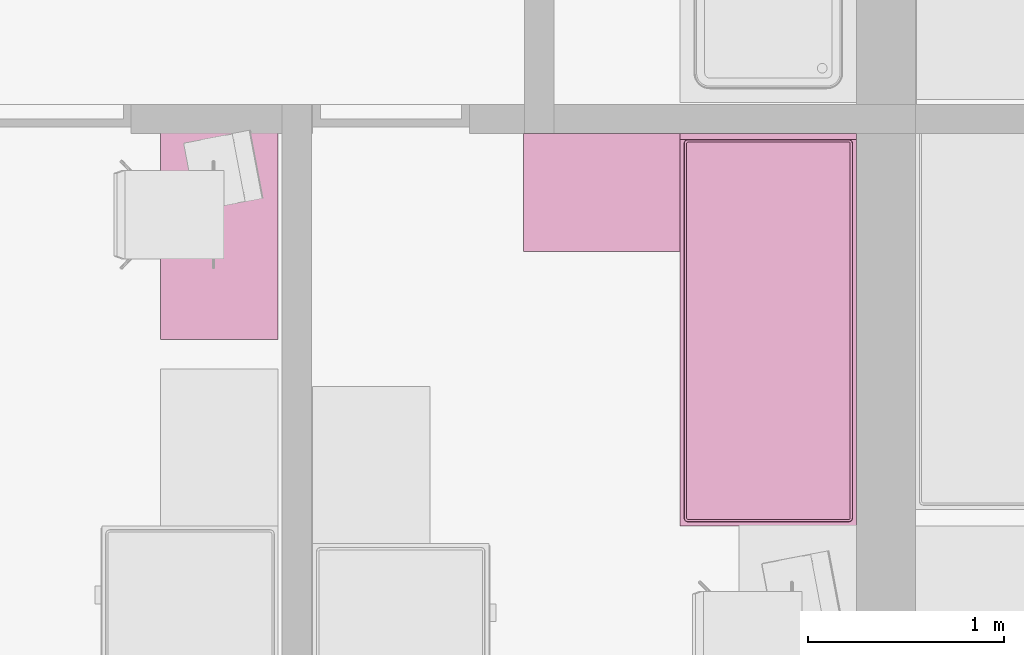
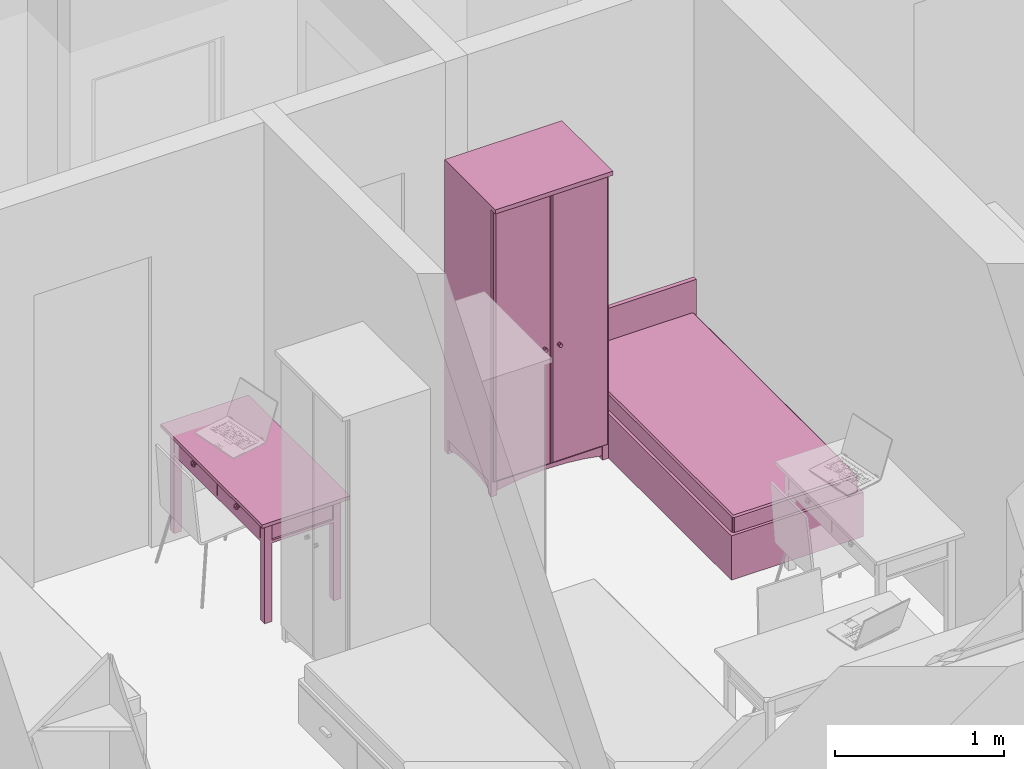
# One storey, part 80 of 165: 3 furnishings.
"""IFC2X3 building model written with IfcOpenShell, lengths in millimetres."""

from ifc_helpers import new_model, entity, si_unit, converted_unit, money_unit, direction, frame, origin_with_axes, place, context, subcontext, project, spatial, faceted_brep, source, transform, mapped, material, material_list, type_object, element, save


model = new_model("IFC2X3")

# Units and contexts
model_context = context("Model", 3, precision=1e-05, world=origin_with_axes(), true_north=direction((0.0, 1.0)))
body_context = subcontext(model_context, "Body", "Model", "MODEL_VIEW")
ifc_project = project(units=[si_unit("LENGTHUNIT", "METRE", prefix="MILLI"), si_unit("AREAUNIT", "SQUARE_METRE"), si_unit("VOLUMEUNIT", "CUBIC_METRE"), converted_unit("PLANEANGLEUNIT", "DEGREE", entity("IfcPlaneAngleMeasure", 0.0174532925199), si_unit("PLANEANGLEUNIT", "RADIAN"), dimensions=[0, 0, 0, 0, 0, 0, 0]), si_unit("SOLIDANGLEUNIT", "STERADIAN"), money_unit("USD"), converted_unit("TIMEUNIT", "Year", entity("IfcTimeMeasure", 31556926.0), si_unit("TIMEUNIT", "SECOND"), dimensions=[0, 0, 0, 0, 0, 0, 0]), si_unit("MASSUNIT", "GRAM"), si_unit("THERMODYNAMICTEMPERATUREUNIT", "DEGREE_CELSIUS"), si_unit("LUMINOUSINTENSITYUNIT", "LUMEN")], contexts=[model_context])

# Site, building, storey
site_placement = place(None, origin_with_axes())
site = spatial("IfcSite", under=ifc_project, at=site_placement, Name="Site", CompositionType="ELEMENT")
building_placement = place(site_placement, origin_with_axes())
building = spatial("IfcBuilding", under=site, at=building_placement, Name="Building", CompositionType="ELEMENT")
storey_placement = place(building_placement, frame((0.0, 0.0, 6300.0), z_axis=(0.0, 0.0, 1.0), x_axis=(1.0, 0.0, 0.0)))
storey = spatial("IfcBuildingStorey", under=building, at=storey_placement, Name="4KORRUS", CompositionType="ELEMENT", Elevation=6300.0)

# Furnishings
ifc_material = material(Name="Background")
ifc_material_list = material_list([ifc_material])
furnishing_element_type_1 = type_object("IfcFurnishingElementType", Name="Bed 19")
shared_shape_1 = source(origin_with_axes(), body_context, "Body", "Brep", [
    faceted_brep([(900.0, 1970.0, 0.0), (0.0, 1970.0, 0.0), (0.0, 2000.0, 0.0), (900.0, 2000.0, 0.0), (900.0, 1970.0, 660.0), (0.0, 1970.0, 660.0), (0.0, 2000.0, 660.0), (900.0, 2000.0, 660.0)], [[[0, 1, 2, 3]], [[1, 0, 4, 5]], [[2, 1, 5, 6]], [[3, 2, 6, 7]], [[0, 3, 7, 4]], [[5, 4, 7, 6]]]),
    faceted_brep([(900.0, 0.0, 0.0), (0.0, 0.0, 0.0), (0.0, 1970.0, 0.0), (900.0, 1970.0, 0.0), (900.0, 0.0, 320.0), (0.0, 0.0, 320.0), (0.0, 1970.0, 320.0), (900.0, 1970.0, 320.0)], [[[0, 1, 2, 3]], [[1, 0, 4, 5]], [[2, 1, 5, 6]], [[3, 2, 6, 7]], [[0, 3, 7, 4]], [[5, 4, 7, 6]]]),
    faceted_brep([(905.0, 10.0, 30.0), (900.0, 10.0, 30.0), (900.0, 695.0, 30.0), (905.0, 695.0, 30.0), (905.0, 10.0, 290.0), (900.0, 10.0, 290.0), (900.0, 695.0, 290.0), (905.0, 695.0, 290.0)], [[[0, 1, 2, 3]], [[1, 0, 4, 5]], [[2, 1, 5, 6]], [[3, 2, 6, 7]], [[0, 3, 7, 4]], [[5, 4, 7, 6]]]),
    faceted_brep([(935.0, 307.5, 150.0), (905.0, 307.5, 150.0), (905.0, 397.5, 150.0), (935.0, 397.5, 150.0), (935.0, 307.5, 170.0), (905.0, 307.5, 170.0), (905.0, 397.5, 170.0), (935.0, 397.5, 170.0)], [[[0, 1, 2, 3]], [[1, 0, 4, 5]], [[2, 1, 5, 6]], [[3, 2, 6, 7]], [[0, 3, 7, 4]], [[5, 4, 7, 6]]]),
    faceted_brep([(905.0, 705.0, 30.0), (900.0, 705.0, 30.0), (900.0, 1390.0, 30.0), (905.0, 1390.0, 30.0), (905.0, 705.0, 290.0), (900.0, 705.0, 290.0), (900.0, 1390.0, 290.0), (905.0, 1390.0, 290.0)], [[[0, 1, 2, 3]], [[1, 0, 4, 5]], [[2, 1, 5, 6]], [[3, 2, 6, 7]], [[0, 3, 7, 4]], [[5, 4, 7, 6]]]),
    faceted_brep([(935.0, 1002.5, 150.0), (905.0, 1002.5, 150.0), (905.0, 1092.5, 150.0), (935.0, 1092.5, 150.0), (935.0, 1002.5, 170.0), (905.0, 1002.5, 170.0), (905.0, 1092.5, 170.0), (935.0, 1092.5, 170.0)], [[[0, 1, 2, 3]], [[1, 0, 4, 5]], [[2, 1, 5, 6]], [[3, 2, 6, 7]], [[0, 3, 7, 4]], [[5, 4, 7, 6]]]),
    faceted_brep([(20.0, 40.0, 350.0), (20.0, 1950.0, 350.0), (21.522, 1957.654, 350.0), (25.858, 1964.142, 350.0), (32.346, 1968.478, 350.0), (40.0, 1970.0, 350.0), (860.0, 1970.0, 350.0), (867.654, 1968.478, 350.0), (874.142, 1964.142, 350.0), (878.478, 1957.654, 350.0), (880.0, 1950.0, 350.0), (880.0, 40.0, 350.0), (878.478, 32.346, 350.0), (874.142, 25.858, 350.0), (867.654, 21.522, 350.0), (860.0, 20.0, 350.0), (40.0, 20.0, 350.0), (32.346, 21.522, 350.0), (25.858, 25.858, 350.0), (21.522, 32.346, 350.0), (20.0, 40.0, 420.0), (20.0, 1950.0, 420.0), (21.522, 1957.654, 420.0), (25.858, 1964.142, 420.0), (32.346, 1968.478, 420.0), (40.0, 1970.0, 420.0), (860.0, 1970.0, 420.0), (867.654, 1968.478, 420.0), (874.142, 1964.142, 420.0), (878.478, 1957.654, 420.0), (880.0, 1950.0, 420.0), (880.0, 40.0, 420.0), (878.478, 32.346, 420.0), (874.142, 25.858, 420.0), (867.654, 21.522, 420.0), (860.0, 20.0, 420.0), (40.0, 20.0, 420.0), (32.346, 21.522, 420.0), (25.858, 25.858, 420.0), (21.522, 32.346, 420.0), (21.522, 40.15, 427.654), (21.522, 1949.85, 427.654), (22.956, 1957.06, 427.654), (26.955, 1963.045, 427.654), (32.94, 1967.044, 427.654), (40.15, 1968.478, 427.654), (859.85, 1968.478, 427.654), (867.06, 1967.044, 427.654), (873.045, 1963.045, 427.654), (877.044, 1957.06, 427.654), (878.478, 1949.85, 427.654), (878.478, 40.15, 427.654), (877.044, 32.94, 427.654), (873.045, 26.955, 427.654), (867.06, 22.956, 427.654), (859.85, 21.522, 427.654), (40.15, 21.522, 427.654), (32.94, 22.956, 427.654), (26.955, 26.955, 427.654), (22.956, 32.94, 427.654), (32.346, 41.216, 438.478), (32.346, 1948.784, 438.478), (33.152, 1952.836, 438.478), (34.759, 1955.241, 438.478), (37.164, 1956.848, 438.478), (41.216, 1957.654, 438.478), (858.784, 1957.654, 438.478), (862.836, 1956.848, 438.478), (865.241, 1955.241, 438.478), (866.848, 1952.836, 438.478), (867.654, 1948.784, 438.478), (867.654, 41.216, 438.478), (866.848, 37.164, 438.478), (865.241, 34.759, 438.478), (862.836, 33.152, 438.478), (858.784, 32.346, 438.478), (41.216, 32.346, 438.478), (37.164, 33.152, 438.478), (34.759, 34.759, 438.478), (33.152, 37.164, 438.478), (40.0, 41.97, 440.0), (40.0, 1948.03, 440.0), (40.327, 1949.673, 440.0), (40.0, 1950.0, 439.924), (41.97, 1950.0, 440.0), (858.03, 1950.0, 440.0), (859.673, 1949.673, 440.0), (860.0, 1950.0, 439.924), (860.0, 1948.03, 440.0), (860.0, 41.97, 440.0), (859.673, 40.327, 440.0), (860.0, 40.0, 439.924), (858.03, 40.0, 440.0), (41.97, 40.0, 440.0), (40.327, 40.327, 440.0), (40.0, 40.0, 439.924)], [[[0, 1, 2, 3, 4, 5, 6, 7, 8, 9, 10, 11, 12, 13, 14, 15, 16, 17, 18, 19]], [[1, 0, 20, 21]], [[2, 1, 21, 22]], [[3, 2, 22, 23]], [[4, 3, 23, 24]], [[5, 4, 24, 25]], [[6, 5, 25, 26]], [[7, 6, 26, 27]], [[8, 7, 27, 28]], [[9, 8, 28, 29]], [[10, 9, 29, 30]], [[11, 10, 30, 31]], [[12, 11, 31, 32]], [[13, 12, 32, 33]], [[14, 13, 33, 34]], [[15, 14, 34, 35]], [[16, 15, 35, 36]], [[17, 16, 36, 37]], [[18, 17, 37, 38]], [[19, 18, 38, 39]], [[0, 19, 39, 20]], [[21, 20, 40, 41]], [[22, 21, 41, 42]], [[23, 22, 42, 43]], [[24, 23, 43, 44]], [[25, 24, 44, 45]], [[26, 25, 45, 46]], [[27, 26, 46, 47]], [[28, 27, 47, 48]], [[29, 28, 48, 49]], [[30, 29, 49, 50]], [[31, 30, 50, 51]], [[32, 31, 51, 52]], [[33, 32, 52, 53]], [[34, 33, 53, 54]], [[35, 34, 54, 55]], [[36, 35, 55, 56]], [[37, 36, 56, 57]], [[38, 37, 57, 58]], [[39, 38, 58, 59]], [[20, 39, 59, 40]], [[41, 40, 60, 61]], [[42, 41, 61, 62]], [[43, 42, 62, 63]], [[44, 43, 63, 64]], [[45, 44, 64, 65]], [[46, 45, 65, 66]], [[47, 46, 66, 67]], [[48, 47, 67, 68]], [[49, 48, 68, 69]], [[50, 49, 69, 70]], [[51, 50, 70, 71]], [[52, 51, 71, 72]], [[53, 52, 72, 73]], [[54, 53, 73, 74]], [[55, 54, 74, 75]], [[56, 55, 75, 76]], [[57, 56, 76, 77]], [[58, 57, 77, 78]], [[59, 58, 78, 79]], [[40, 59, 79, 60]], [[61, 60, 80, 81]], [[62, 61, 81, 82, 83]], [[63, 62, 83]], [[64, 63, 83]], [[65, 64, 83, 82, 84]], [[66, 65, 84, 85]], [[67, 66, 85, 86, 87]], [[68, 67, 87]], [[69, 68, 87]], [[70, 69, 87, 86, 88]], [[71, 70, 88, 89]], [[72, 71, 89, 90, 91]], [[73, 72, 91]], [[74, 73, 91]], [[75, 74, 91, 90, 92]], [[76, 75, 92, 93]], [[77, 76, 93, 94, 95]], [[78, 77, 95]], [[79, 78, 95]], [[60, 79, 95, 94, 80]], [[81, 80, 94, 93, 92, 90, 89, 88, 86, 85, 84, 82]]]),
    faceted_brep([(20.0, 40.0, 350.0), (21.522, 32.346, 350.0), (25.858, 25.858, 350.0), (32.346, 21.522, 350.0), (40.0, 20.0, 350.0), (860.0, 20.0, 350.0), (867.654, 21.522, 350.0), (874.142, 25.858, 350.0), (878.478, 32.346, 350.0), (880.0, 40.0, 350.0), (880.0, 1950.0, 350.0), (878.478, 1957.654, 350.0), (874.142, 1964.142, 350.0), (867.654, 1968.478, 350.0), (860.0, 1970.0, 350.0), (40.0, 1970.0, 350.0), (32.346, 1968.478, 350.0), (25.858, 1964.142, 350.0), (21.522, 1957.654, 350.0), (20.0, 1950.0, 350.0), (20.0, 40.0, 320.0), (21.522, 32.346, 320.0), (25.858, 25.858, 320.0), (32.346, 21.522, 320.0), (40.0, 20.0, 320.0), (860.0, 20.0, 320.0), (867.654, 21.522, 320.0), (874.142, 25.858, 320.0), (878.478, 32.346, 320.0), (880.0, 40.0, 320.0), (880.0, 1950.0, 320.0), (878.478, 1957.654, 320.0), (874.142, 1964.142, 320.0), (867.654, 1968.478, 320.0), (860.0, 1970.0, 320.0), (40.0, 1970.0, 320.0), (32.346, 1968.478, 320.0), (25.858, 1964.142, 320.0), (21.522, 1957.654, 320.0), (20.0, 1950.0, 320.0)], [[[0, 1, 2, 3, 4, 5, 6, 7, 8, 9, 10, 11, 12, 13, 14, 15, 16, 17, 18, 19]], [[0, 20, 21, 1]], [[1, 21, 22, 2]], [[2, 22, 23, 3]], [[3, 23, 24, 4]], [[4, 24, 25, 5]], [[5, 25, 26, 6]], [[6, 26, 27, 7]], [[7, 27, 28, 8]], [[8, 28, 29, 9]], [[9, 29, 30, 10]], [[10, 30, 31, 11]], [[11, 31, 32, 12]], [[12, 32, 33, 13]], [[13, 33, 34, 14]], [[14, 34, 35, 15]], [[15, 35, 36, 16]], [[16, 36, 37, 17]], [[17, 37, 38, 18]], [[18, 38, 39, 19]], [[19, 39, 20, 0]], [[20, 39, 38, 37, 36, 35, 34, 33, 32, 31, 30, 29, 28, 27, 26, 25, 24, 23, 22, 21]]]),
])
furnishing_1_placement = place(storey_placement, frame((-31190.2967033, -17439.2398994, 0.0), z_axis=(0.0, 0.0, 1.0), x_axis=(1.0, 0.0, 0.0)))
element("IfcFurnishingElement", 1, at=furnishing_1_placement, inside=storey, type_object=furnishing_element_type_1, material=ifc_material_list, Name="FU - 013", context=body_context, shape_type="MappedRepresentation", body=[
    mapped(shared_shape_1, transform((0.0, 0.0, 0.0))),
])
furnishing_element_type_2 = type_object("IfcFurnishingElementType", Name="Cupboard 19")
shared_shape_2 = source(origin_with_axes(), body_context, "Body", "Brep", [
    faceted_brep([(780.0, 600.0, 120.0), (780.0, 600.0, 2050.0), (780.0, 580.0, 2050.0), (780.0, 580.0, 120.0), (20.0, 600.0, 120.0), (20.0, 600.0, 2050.0), (20.0, 580.0, 2050.0), (20.0, 580.0, 120.0)], [[[0, 1, 2, 3]], [[4, 5, 1, 0]], [[1, 5, 6, 2]], [[3, 2, 6, 7]], [[0, 3, 7, 4]], [[7, 6, 5, 4]]]),
    faceted_brep([(0.0, 50.0, 100.0), (0.0, 600.0, 100.0), (20.0, 600.0, 100.0), (20.0, 50.0, 100.0), (0.0, 50.0, 2070.0), (0.0, 600.0, 2070.0), (20.0, 600.0, 2070.0), (20.0, 50.0, 2070.0)], [[[0, 1, 2, 3]], [[0, 4, 5, 1]], [[1, 5, 6, 2]], [[2, 6, 7, 3]], [[3, 7, 4, 0]], [[7, 6, 5, 4]]]),
    faceted_brep([(780.0, 50.0, 100.0), (780.0, 600.0, 100.0), (800.0, 600.0, 100.0), (800.0, 50.0, 100.0), (780.0, 50.0, 2070.0), (780.0, 600.0, 2070.0), (800.0, 600.0, 2070.0), (800.0, 50.0, 2070.0)], [[[0, 1, 2, 3]], [[0, 4, 5, 1]], [[1, 5, 6, 2]], [[2, 6, 7, 3]], [[3, 7, 4, 0]], [[7, 6, 5, 4]]]),
    faceted_brep([(20.0, 50.0, 100.0), (20.0, 600.0, 100.0), (780.0, 600.0, 100.0), (780.0, 50.0, 100.0), (20.0, 50.0, 120.0), (20.0, 600.0, 120.0), (780.0, 600.0, 120.0), (780.0, 50.0, 120.0)], [[[0, 1, 2, 3]], [[0, 4, 5, 1]], [[1, 5, 6, 2]], [[2, 6, 7, 3]], [[3, 7, 4, 0]], [[7, 6, 5, 4]]]),
    faceted_brep([(20.0, 50.0, 2050.0), (20.0, 600.0, 2050.0), (780.0, 600.0, 2050.0), (780.0, 50.0, 2050.0), (20.0, 50.0, 2070.0), (20.0, 600.0, 2070.0), (780.0, 600.0, 2070.0), (780.0, 50.0, 2070.0)], [[[0, 1, 2, 3]], [[0, 4, 5, 1]], [[1, 5, 6, 2]], [[2, 6, 7, 3]], [[3, 7, 4, 0]], [[7, 6, 5, 4]]]),
    faceted_brep([(0.0, 600.0, 2070.0), (0.0, 0.0, 2070.0), (0.0, 0.0, 2100.0), (0.0, 600.0, 2100.0), (800.0, 600.0, 2070.0), (800.0, 0.0, 2070.0), (800.0, 0.0, 2100.0), (800.0, 600.0, 2100.0)], [[[0, 1, 2, 3]], [[0, 4, 5, 1]], [[1, 5, 6, 2]], [[3, 2, 6, 7]], [[4, 0, 3, 7]], [[5, 4, 7, 6]]]),
    faceted_brep([(760.0, 590.0, 25.0), (760.0, 570.0, 25.0), (640.962, 570.0, 45.8), (640.962, 590.0, 45.8), (760.0, 590.0, 100.0), (760.0, 570.0, 100.0), (40.0, 570.0, 100.0), (40.0, 570.0, 25.0), (159.038, 570.0, 45.8), (279.23, 570.0, 58.32), (400.0, 570.0, 62.5), (520.77, 570.0, 58.32), (520.77, 590.0, 58.32), (400.0, 590.0, 62.5), (279.23, 590.0, 58.32), (159.038, 590.0, 45.8), (40.0, 590.0, 25.0), (40.0, 590.0, 100.0)], [[[0, 1, 2, 3]], [[4, 5, 1, 0]], [[1, 5, 6, 7, 8, 9, 10, 11, 2]], [[3, 2, 11, 12]], [[0, 3, 12, 13, 14, 15, 16, 17, 4]], [[17, 6, 5, 4]], [[16, 7, 6, 17]], [[15, 8, 7, 16]], [[14, 9, 8, 15]], [[13, 10, 9, 14]], [[12, 11, 10, 13]]]),
    faceted_brep([(760.0, 80.0, 25.0), (760.0, 60.0, 25.0), (640.962, 60.0, 45.8), (640.962, 80.0, 45.8), (760.0, 80.0, 100.0), (760.0, 60.0, 100.0), (40.0, 60.0, 100.0), (40.0, 60.0, 25.0), (159.038, 60.0, 45.8), (279.23, 60.0, 58.32), (400.0, 60.0, 62.5), (520.77, 60.0, 58.32), (520.77, 80.0, 58.32), (400.0, 80.0, 62.5), (279.23, 80.0, 58.32), (159.038, 80.0, 45.8), (40.0, 80.0, 25.0), (40.0, 80.0, 100.0)], [[[0, 1, 2, 3]], [[4, 5, 1, 0]], [[1, 5, 6, 7, 8, 9, 10, 11, 2]], [[3, 2, 11, 12]], [[0, 3, 12, 13, 14, 15, 16, 17, 4]], [[17, 6, 5, 4]], [[16, 7, 6, 17]], [[15, 8, 7, 16]], [[14, 9, 8, 15]], [[13, 10, 9, 14]], [[12, 11, 10, 13]]]),
    faceted_brep([(790.0, 90.0, 25.0), (770.0, 90.0, 25.0), (770.0, 141.266, 38.072), (790.0, 141.266, 38.072), (790.0, 90.0, 100.0), (770.0, 90.0, 100.0), (770.0, 560.0, 100.0), (770.0, 560.0, 25.0), (770.0, 508.734, 38.072), (770.0, 456.752, 47.92), (770.0, 404.257, 54.508), (770.0, 351.453, 57.808), (770.0, 298.547, 57.808), (770.0, 245.743, 54.508), (770.0, 193.248, 47.92), (790.0, 193.248, 47.92), (790.0, 245.743, 54.508), (790.0, 298.547, 57.808), (790.0, 351.453, 57.808), (790.0, 404.257, 54.508), (790.0, 456.752, 47.92), (790.0, 508.734, 38.072), (790.0, 560.0, 25.0), (790.0, 560.0, 100.0)], [[[0, 1, 2, 3]], [[4, 5, 1, 0]], [[1, 5, 6, 7, 8, 9, 10, 11, 12, 13, 14, 2]], [[3, 2, 14, 15]], [[0, 3, 15, 16, 17, 18, 19, 20, 21, 22, 23, 4]], [[23, 6, 5, 4]], [[22, 7, 6, 23]], [[21, 8, 7, 22]], [[20, 9, 8, 21]], [[19, 10, 9, 20]], [[18, 11, 10, 19]], [[17, 12, 11, 18]], [[16, 13, 12, 17]], [[15, 14, 13, 16]]]),
    faceted_brep([(30.0, 90.0, 25.0), (10.0, 90.0, 25.0), (10.0, 141.266, 38.072), (30.0, 141.266, 38.072), (30.0, 90.0, 100.0), (10.0, 90.0, 100.0), (10.0, 560.0, 100.0), (10.0, 560.0, 25.0), (10.0, 508.734, 38.072), (10.0, 456.752, 47.92), (10.0, 404.257, 54.508), (10.0, 351.453, 57.808), (10.0, 298.547, 57.808), (10.0, 245.743, 54.508), (10.0, 193.248, 47.92), (30.0, 193.248, 47.92), (30.0, 245.743, 54.508), (30.0, 298.547, 57.808), (30.0, 351.453, 57.808), (30.0, 404.257, 54.508), (30.0, 456.752, 47.92), (30.0, 508.734, 38.072), (30.0, 560.0, 25.0), (30.0, 560.0, 100.0)], [[[0, 1, 2, 3]], [[4, 5, 1, 0]], [[1, 5, 6, 7, 8, 9, 10, 11, 12, 13, 14, 2]], [[3, 2, 14, 15]], [[0, 3, 15, 16, 17, 18, 19, 20, 21, 22, 23, 4]], [[23, 6, 5, 4]], [[22, 7, 6, 23]], [[21, 8, 7, 22]], [[20, 9, 8, 21]], [[19, 10, 9, 20]], [[18, 11, 10, 19]], [[17, 12, 11, 18]], [[16, 13, 12, 17]], [[15, 14, 13, 16]]]),
    faceted_brep([(760.0, 560.0, 0.0), (760.0, 560.0, 100.0), (760.0, 600.0, 100.0), (760.0, 600.0, 0.0), (800.0, 560.0, 0.0), (800.0, 560.0, 100.0), (800.0, 600.0, 100.0), (800.0, 600.0, 0.0)], [[[0, 1, 2, 3]], [[4, 5, 1, 0]], [[1, 5, 6, 2]], [[3, 2, 6, 7]], [[0, 3, 7, 4]], [[7, 6, 5, 4]]]),
    faceted_brep([(0.0, 560.0, 0.0), (0.0, 560.0, 100.0), (0.0, 600.0, 100.0), (0.0, 600.0, 0.0), (40.0, 560.0, 0.0), (40.0, 560.0, 100.0), (40.0, 600.0, 100.0), (40.0, 600.0, 0.0)], [[[0, 1, 2, 3]], [[4, 5, 1, 0]], [[1, 5, 6, 2]], [[3, 2, 6, 7]], [[0, 3, 7, 4]], [[7, 6, 5, 4]]]),
    faceted_brep([(760.0, 50.0, 0.0), (760.0, 50.0, 100.0), (760.0, 90.0, 100.0), (760.0, 90.0, 0.0), (800.0, 50.0, 0.0), (800.0, 50.0, 100.0), (800.0, 90.0, 100.0), (800.0, 90.0, 0.0)], [[[0, 1, 2, 3]], [[4, 5, 1, 0]], [[1, 5, 6, 2]], [[3, 2, 6, 7]], [[0, 3, 7, 4]], [[7, 6, 5, 4]]]),
    faceted_brep([(0.0, 50.0, 0.0), (0.0, 50.0, 100.0), (0.0, 90.0, 100.0), (0.0, 90.0, 0.0), (40.0, 50.0, 0.0), (40.0, 50.0, 100.0), (40.0, 90.0, 100.0), (40.0, 90.0, 0.0)], [[[0, 1, 2, 3]], [[4, 5, 1, 0]], [[1, 5, 6, 2]], [[3, 2, 6, 7]], [[0, 3, 7, 4]], [[7, 6, 5, 4]]]),
    faceted_brep([(780.0, 580.0, 587.5), (780.0, 580.0, 607.5), (780.0, 50.0, 607.5), (780.0, 50.0, 587.5), (20.0, 580.0, 587.5), (20.0, 580.0, 607.5), (20.0, 50.0, 607.5), (20.0, 50.0, 587.5)], [[[0, 1, 2, 3]], [[4, 5, 1, 0]], [[1, 5, 6, 2]], [[3, 2, 6, 7]], [[0, 3, 7, 4]], [[7, 6, 5, 4]]]),
    faceted_brep([(780.0, 580.0, 1075.0), (780.0, 580.0, 1095.0), (780.0, 50.0, 1095.0), (780.0, 50.0, 1075.0), (20.0, 580.0, 1075.0), (20.0, 580.0, 1095.0), (20.0, 50.0, 1095.0), (20.0, 50.0, 1075.0)], [[[0, 1, 2, 3]], [[4, 5, 1, 0]], [[1, 5, 6, 2]], [[3, 2, 6, 7]], [[0, 3, 7, 4]], [[7, 6, 5, 4]]]),
    faceted_brep([(780.0, 580.0, 1562.5), (780.0, 580.0, 1582.5), (780.0, 50.0, 1582.5), (780.0, 50.0, 1562.5), (20.0, 580.0, 1562.5), (20.0, 580.0, 1582.5), (20.0, 50.0, 1582.5), (20.0, 50.0, 1562.5)], [[[0, 1, 2, 3]], [[4, 5, 1, 0]], [[1, 5, 6, 2]], [[3, 2, 6, 7]], [[0, 3, 7, 4]], [[7, 6, 5, 4]]]),
    faceted_brep([(789.5, 50.0, 110.5), (400.5, 50.0, 110.5), (400.5, 50.0, 2059.5), (789.5, 50.0, 2059.5), (789.5, 40.0, 110.5), (400.5, 40.0, 110.5), (400.5, 40.0, 2059.5), (789.5, 40.0, 2059.5), (779.5, 30.0, 120.5), (410.5, 30.0, 120.5), (410.5, 30.0, 2049.5), (779.5, 30.0, 2049.5)], [[[0, 1, 2, 3]], [[0, 4, 5, 1]], [[1, 5, 6, 2]], [[2, 6, 7, 3]], [[3, 7, 4, 0]], [[4, 8, 9, 5]], [[5, 9, 10, 6]], [[6, 10, 11, 7]], [[7, 11, 8, 4]], [[10, 9, 8, 11]]]),
    faceted_brep([(399.5, 50.0, 110.5), (10.5, 50.0, 110.5), (10.5, 50.0, 2059.5), (399.5, 50.0, 2059.5), (399.5, 40.0, 110.5), (10.5, 40.0, 110.5), (10.5, 40.0, 2059.5), (399.5, 40.0, 2059.5), (389.5, 30.0, 120.5), (20.5, 30.0, 120.5), (20.5, 30.0, 2049.5), (389.5, 30.0, 2049.5)], [[[0, 1, 2, 3]], [[0, 4, 5, 1]], [[1, 5, 6, 2]], [[2, 6, 7, 3]], [[3, 7, 4, 0]], [[4, 8, 9, 5]], [[5, 9, 10, 6]], [[6, 10, 11, 7]], [[7, 11, 8, 4]], [[10, 9, 8, 11]]]),
    faceted_brep([(339.608, 30.0, 954.0), (338.0, 30.0, 960.0), (339.608, 30.0, 966.0), (344.0, 30.0, 970.392), (350.0, 30.0, 972.0), (356.0, 30.0, 970.392), (360.392, 30.0, 966.0), (362.0, 30.0, 960.0), (360.392, 30.0, 954.0), (356.0, 30.0, 949.608), (350.0, 30.0, 948.0), (344.0, 30.0, 949.608), (339.608, 5.0, 954.0), (338.0, 5.0, 960.0), (339.608, 5.0, 966.0), (344.0, 5.0, 970.392), (350.0, 5.0, 972.0), (356.0, 5.0, 970.392), (360.392, 5.0, 966.0), (362.0, 5.0, 960.0), (360.392, 5.0, 954.0), (356.0, 5.0, 949.608), (350.0, 5.0, 948.0), (344.0, 5.0, 949.608)], [[[0, 1, 2, 3, 4, 5, 6, 7, 8, 9, 10, 11]], [[0, 12, 13, 1]], [[1, 13, 14, 2]], [[2, 14, 15, 3]], [[3, 15, 16, 4]], [[4, 16, 17, 5]], [[5, 17, 18, 6]], [[6, 18, 19, 7]], [[7, 19, 20, 8]], [[8, 20, 21, 9]], [[9, 21, 22, 10]], [[10, 22, 23, 11]], [[11, 23, 12, 0]], [[12, 23, 22, 21, 20, 19, 18, 17, 16, 15, 14, 13]]]),
    faceted_brep([(460.392, 30.0, 954.0), (456.0, 30.0, 949.608), (450.0, 30.0, 948.0), (444.0, 30.0, 949.608), (439.608, 30.0, 954.0), (438.0, 30.0, 960.0), (439.608, 30.0, 966.0), (444.0, 30.0, 970.392), (450.0, 30.0, 972.0), (456.0, 30.0, 970.392), (460.392, 30.0, 966.0), (462.0, 30.0, 960.0), (460.392, 5.0, 954.0), (456.0, 5.0, 949.608), (450.0, 5.0, 948.0), (444.0, 5.0, 949.608), (439.608, 5.0, 954.0), (438.0, 5.0, 960.0), (439.608, 5.0, 966.0), (444.0, 5.0, 970.392), (450.0, 5.0, 972.0), (456.0, 5.0, 970.392), (460.392, 5.0, 966.0), (462.0, 5.0, 960.0)], [[[0, 1, 2, 3, 4, 5, 6, 7, 8, 9, 10, 11]], [[1, 0, 12, 13]], [[2, 1, 13, 14]], [[3, 2, 14, 15]], [[4, 3, 15, 16]], [[5, 4, 16, 17]], [[6, 5, 17, 18]], [[7, 6, 18, 19]], [[8, 7, 19, 20]], [[9, 8, 20, 21]], [[10, 9, 21, 22]], [[11, 10, 22, 23]], [[0, 11, 23, 12]], [[12, 23, 22, 21, 20, 19, 18, 17, 16, 15, 14, 13]]]),
])
furnishing_2_placement = place(storey_placement, frame((-31990.2967033, -16039.2398994, 0.0), z_axis=(0.0, 0.0, 1.0), x_axis=(1.0, 0.0, 0.0)))
element("IfcFurnishingElement", 2, at=furnishing_2_placement, inside=storey, type_object=furnishing_element_type_2, material=ifc_material_list, Name="FU - 014", context=body_context, shape_type="MappedRepresentation", body=[
    mapped(shared_shape_2, transform((0.0, 0.0, 0.0))),
])
furnishing_element_type_3 = type_object("IfcFurnishingElementType", Name="Rectangular Table 01 19")
shared_shape_3 = source(origin_with_axes(), body_context, "Body", "Brep", [
    faceted_brep([(90.0, 40.0, 0.0), (40.0, 40.0, 0.0), (40.0, 90.0, 0.0), (90.0, 90.0, 0.0), (90.0, 40.0, 725.0), (40.0, 40.0, 725.0), (40.0, 90.0, 725.0), (90.0, 90.0, 725.0)], [[[0, 1, 2, 3]], [[1, 0, 4, 5]], [[2, 1, 5, 6]], [[3, 2, 6, 7]], [[0, 3, 7, 4]], [[5, 4, 7, 6]]]),
    faceted_brep([(1160.0, 40.0, 0.0), (1110.0, 40.0, 0.0), (1110.0, 90.0, 0.0), (1160.0, 90.0, 0.0), (1160.0, 40.0, 725.0), (1110.0, 40.0, 725.0), (1110.0, 90.0, 725.0), (1160.0, 90.0, 725.0)], [[[0, 1, 2, 3]], [[1, 0, 4, 5]], [[2, 1, 5, 6]], [[3, 2, 6, 7]], [[0, 3, 7, 4]], [[5, 4, 7, 6]]]),
    faceted_brep([(90.0, 510.0, 0.0), (40.0, 510.0, 0.0), (40.0, 560.0, 0.0), (90.0, 560.0, 0.0), (90.0, 510.0, 725.0), (40.0, 510.0, 725.0), (40.0, 560.0, 725.0), (90.0, 560.0, 725.0)], [[[0, 1, 2, 3]], [[1, 0, 4, 5]], [[2, 1, 5, 6]], [[3, 2, 6, 7]], [[0, 3, 7, 4]], [[5, 4, 7, 6]]]),
    faceted_brep([(1160.0, 510.0, 0.0), (1110.0, 510.0, 0.0), (1110.0, 560.0, 0.0), (1160.0, 560.0, 0.0), (1160.0, 510.0, 725.0), (1110.0, 510.0, 725.0), (1110.0, 560.0, 725.0), (1160.0, 560.0, 725.0)], [[[0, 1, 2, 3]], [[1, 0, 4, 5]], [[2, 1, 5, 6]], [[3, 2, 6, 7]], [[0, 3, 7, 4]], [[5, 4, 7, 6]]]),
    faceted_brep([(1160.0, 40.0, 565.0), (40.0, 40.0, 565.0), (40.0, 560.0, 565.0), (1160.0, 560.0, 565.0), (1160.0, 40.0, 585.0), (40.0, 40.0, 585.0), (40.0, 560.0, 585.0), (1160.0, 560.0, 585.0)], [[[0, 1, 2, 3]], [[1, 0, 4, 5]], [[2, 1, 5, 6]], [[3, 2, 6, 7]], [[0, 3, 7, 4]], [[5, 4, 7, 6]]]),
    faceted_brep([(1110.0, 52.5, 585.0), (90.0, 52.5, 585.0), (90.0, 77.5, 585.0), (1110.0, 77.5, 585.0), (1110.0, 52.5, 745.0), (90.0, 52.5, 745.0), (90.0, 77.5, 745.0), (1110.0, 77.5, 745.0)], [[[0, 1, 2, 3]], [[1, 0, 4, 5]], [[2, 1, 5, 6]], [[3, 2, 6, 7]], [[0, 3, 7, 4]], [[5, 4, 7, 6]]]),
    faceted_brep([(77.5, 90.0, 585.0), (52.5, 90.0, 585.0), (52.5, 510.0, 585.0), (77.5, 510.0, 585.0), (77.5, 90.0, 745.0), (52.5, 90.0, 745.0), (52.5, 510.0, 745.0), (77.5, 510.0, 745.0)], [[[0, 1, 2, 3]], [[1, 0, 4, 5]], [[2, 1, 5, 6]], [[3, 2, 6, 7]], [[0, 3, 7, 4]], [[5, 4, 7, 6]]]),
    faceted_brep([(90.0, 547.5, 585.0), (1110.0, 547.5, 585.0), (1110.0, 522.5, 585.0), (90.0, 522.5, 585.0), (90.0, 547.5, 745.0), (1110.0, 547.5, 745.0), (1110.0, 522.5, 745.0), (90.0, 522.5, 745.0)], [[[0, 1, 2, 3]], [[1, 0, 4, 5]], [[2, 1, 5, 6]], [[3, 2, 6, 7]], [[0, 3, 7, 4]], [[5, 4, 7, 6]]]),
    faceted_brep([(1122.5, 510.0, 585.0), (1147.5, 510.0, 585.0), (1147.5, 90.0, 585.0), (1122.5, 90.0, 585.0), (1122.5, 510.0, 745.0), (1147.5, 510.0, 745.0), (1147.5, 90.0, 745.0), (1122.5, 90.0, 745.0)], [[[0, 1, 2, 3]], [[1, 0, 4, 5]], [[2, 1, 5, 6]], [[3, 2, 6, 7]], [[0, 3, 7, 4]], [[5, 4, 7, 6]]]),
    faceted_brep([(597.5, 40.0, 585.0), (95.0, 40.0, 585.0), (95.0, 60.0, 585.0), (597.5, 60.0, 585.0), (597.5, 40.0, 745.0), (95.0, 40.0, 745.0), (95.0, 60.0, 745.0), (597.5, 60.0, 745.0)], [[[0, 1, 2, 3]], [[1, 0, 4, 5]], [[2, 1, 5, 6]], [[3, 2, 6, 7]], [[0, 3, 7, 4]], [[5, 4, 7, 6]]]),
    faceted_brep([(1105.0, 40.0, 585.0), (602.5, 40.0, 585.0), (602.5, 60.0, 585.0), (1105.0, 60.0, 585.0), (1105.0, 40.0, 745.0), (602.5, 40.0, 745.0), (602.5, 60.0, 745.0), (1105.0, 60.0, 745.0)], [[[0, 1, 2, 3]], [[1, 0, 4, 5]], [[2, 1, 5, 6]], [[3, 2, 6, 7]], [[0, 3, 7, 4]], [[5, 4, 7, 6]]]),
    faceted_brep([(354.91, 40.0, 660.0), (351.25, 40.0, 656.34), (346.25, 40.0, 655.0), (341.25, 40.0, 656.34), (337.59, 40.0, 660.0), (336.25, 40.0, 665.0), (337.59, 40.0, 670.0), (341.25, 40.0, 673.66), (346.25, 40.0, 675.0), (351.25, 40.0, 673.66), (354.91, 40.0, 670.0), (356.25, 40.0, 665.0), (354.91, 25.0, 660.0), (351.25, 25.0, 656.34), (346.25, 25.0, 655.0), (341.25, 25.0, 656.34), (337.59, 25.0, 660.0), (336.25, 25.0, 665.0), (337.59, 25.0, 670.0), (341.25, 25.0, 673.66), (346.25, 25.0, 675.0), (351.25, 25.0, 673.66), (354.91, 25.0, 670.0), (356.25, 25.0, 665.0)], [[[0, 1, 2, 3, 4, 5, 6, 7, 8, 9, 10, 11]], [[1, 0, 12, 13]], [[2, 1, 13, 14]], [[3, 2, 14, 15]], [[4, 3, 15, 16]], [[5, 4, 16, 17]], [[6, 5, 17, 18]], [[7, 6, 18, 19]], [[8, 7, 19, 20]], [[9, 8, 20, 21]], [[10, 9, 21, 22]], [[11, 10, 22, 23]], [[0, 11, 23, 12]], [[12, 23, 22, 21, 20, 19, 18, 17, 16, 15, 14, 13]]]),
    faceted_brep([(356.25, 12.01, 665.0), (346.25, 10.0, 665.0), (354.91, 12.01, 660.0), (354.91, 12.01, 670.0), (351.25, 12.01, 656.34), (363.571, 17.5, 665.0), (361.25, 17.5, 656.34), (351.25, 12.01, 673.66), (361.25, 17.5, 673.66), (346.25, 12.01, 655.0), (354.91, 17.5, 650.0), (366.25, 25.0, 665.0), (363.571, 25.0, 655.0), (346.25, 12.01, 675.0), (354.91, 17.5, 680.0), (363.571, 25.0, 675.0), (341.25, 12.01, 656.34), (346.25, 17.5, 647.679), (356.25, 25.0, 647.679), (346.25, 25.0, 645.0), (336.25, 25.0, 647.679), (328.929, 25.0, 655.0), (326.25, 25.0, 665.0), (328.929, 25.0, 675.0), (336.25, 25.0, 682.321), (346.25, 25.0, 685.0), (356.25, 25.0, 682.321), (341.25, 12.01, 673.66), (346.25, 17.5, 682.321), (337.59, 12.01, 660.0), (337.59, 17.5, 650.0), (331.25, 17.5, 656.34), (328.929, 17.5, 665.0), (331.25, 17.5, 673.66), (337.59, 17.5, 680.0), (337.59, 12.01, 670.0), (336.25, 12.01, 665.0)], [[[0, 1, 2]], [[3, 1, 0]], [[2, 1, 4]], [[5, 0, 2, 6]], [[7, 1, 3]], [[8, 3, 0, 5]], [[4, 1, 9]], [[6, 2, 4, 10]], [[11, 5, 6, 12]], [[13, 1, 7]], [[14, 7, 3, 8]], [[15, 8, 5, 11]], [[9, 1, 16]], [[10, 4, 9, 17]], [[12, 6, 10, 18]], [[12, 18, 19, 20, 21, 22, 23, 24, 25, 26, 15, 11]], [[27, 1, 13]], [[28, 13, 7, 14]], [[26, 14, 8, 15]], [[16, 1, 29]], [[17, 9, 16, 30]], [[18, 10, 17, 19]], [[19, 17, 30, 20]], [[20, 30, 31, 21]], [[21, 31, 32, 22]], [[22, 32, 33, 23]], [[23, 33, 34, 24]], [[24, 34, 28, 25]], [[25, 28, 14, 26]], [[35, 1, 27]], [[34, 27, 13, 28]], [[29, 1, 36]], [[30, 16, 29, 31]], [[31, 29, 36, 32]], [[32, 36, 35, 33]], [[33, 35, 27, 34]], [[36, 1, 35]]]),
    faceted_brep([(862.41, 40.0, 660.0), (858.75, 40.0, 656.34), (853.75, 40.0, 655.0), (848.75, 40.0, 656.34), (845.09, 40.0, 660.0), (843.75, 40.0, 665.0), (845.09, 40.0, 670.0), (848.75, 40.0, 673.66), (853.75, 40.0, 675.0), (858.75, 40.0, 673.66), (862.41, 40.0, 670.0), (863.75, 40.0, 665.0), (862.41, 25.0, 660.0), (858.75, 25.0, 656.34), (853.75, 25.0, 655.0), (848.75, 25.0, 656.34), (845.09, 25.0, 660.0), (843.75, 25.0, 665.0), (845.09, 25.0, 670.0), (848.75, 25.0, 673.66), (853.75, 25.0, 675.0), (858.75, 25.0, 673.66), (862.41, 25.0, 670.0), (863.75, 25.0, 665.0)], [[[0, 1, 2, 3, 4, 5, 6, 7, 8, 9, 10, 11]], [[1, 0, 12, 13]], [[2, 1, 13, 14]], [[3, 2, 14, 15]], [[4, 3, 15, 16]], [[5, 4, 16, 17]], [[6, 5, 17, 18]], [[7, 6, 18, 19]], [[8, 7, 19, 20]], [[9, 8, 20, 21]], [[10, 9, 21, 22]], [[11, 10, 22, 23]], [[0, 11, 23, 12]], [[12, 23, 22, 21, 20, 19, 18, 17, 16, 15, 14, 13]]]),
    faceted_brep([(863.75, 12.01, 665.0), (853.75, 10.0, 665.0), (862.41, 12.01, 660.0), (862.41, 12.01, 670.0), (858.75, 12.01, 656.34), (871.071, 17.5, 665.0), (868.75, 17.5, 656.34), (858.75, 12.01, 673.66), (868.75, 17.5, 673.66), (853.75, 12.01, 655.0), (862.41, 17.5, 650.0), (873.75, 25.0, 665.0), (871.071, 25.0, 655.0), (853.75, 12.01, 675.0), (862.41, 17.5, 680.0), (871.071, 25.0, 675.0), (848.75, 12.01, 656.34), (853.75, 17.5, 647.679), (863.75, 25.0, 647.679), (853.75, 25.0, 645.0), (843.75, 25.0, 647.679), (836.429, 25.0, 655.0), (833.75, 25.0, 665.0), (836.429, 25.0, 675.0), (843.75, 25.0, 682.321), (853.75, 25.0, 685.0), (863.75, 25.0, 682.321), (848.75, 12.01, 673.66), (853.75, 17.5, 682.321), (845.09, 12.01, 660.0), (845.09, 17.5, 650.0), (838.75, 17.5, 656.34), (836.429, 17.5, 665.0), (838.75, 17.5, 673.66), (845.09, 17.5, 680.0), (845.09, 12.01, 670.0), (843.75, 12.01, 665.0)], [[[0, 1, 2]], [[3, 1, 0]], [[2, 1, 4]], [[5, 0, 2, 6]], [[7, 1, 3]], [[8, 3, 0, 5]], [[4, 1, 9]], [[6, 2, 4, 10]], [[11, 5, 6, 12]], [[13, 1, 7]], [[14, 7, 3, 8]], [[15, 8, 5, 11]], [[9, 1, 16]], [[10, 4, 9, 17]], [[12, 6, 10, 18]], [[12, 18, 19, 20, 21, 22, 23, 24, 25, 26, 15, 11]], [[27, 1, 13]], [[28, 13, 7, 14]], [[26, 14, 8, 15]], [[16, 1, 29]], [[17, 9, 16, 30]], [[18, 10, 17, 19]], [[19, 17, 30, 20]], [[20, 30, 31, 21]], [[21, 31, 32, 22]], [[22, 32, 33, 23]], [[23, 33, 34, 24]], [[24, 34, 28, 25]], [[25, 28, 14, 26]], [[35, 1, 27]], [[34, 27, 13, 28]], [[29, 1, 36]], [[30, 16, 29, 31]], [[31, 29, 36, 32]], [[32, 36, 35, 33]], [[33, 35, 27, 34]], [[36, 1, 35]]]),
    faceted_brep([(1200.0, 0.0, 725.0), (0.0, 0.0, 725.0), (0.0, 600.0, 725.0), (1200.0, 600.0, 725.0), (1200.0, 0.0, 750.0), (0.0, 0.0, 750.0), (0.0, 600.0, 750.0), (1200.0, 600.0, 750.0)], [[[0, 1, 2, 3]], [[1, 0, 4, 5]], [[2, 1, 5, 6]], [[3, 2, 6, 7]], [[0, 3, 7, 4]], [[5, 4, 7, 6]]]),
])
furnishing_3_placement = place(storey_placement, frame((-33840.2967033, -15289.2398994, 0.0), z_axis=(0.0, 0.0, 1.0), x_axis=(0.0, -1.0, 0.0)))
element("IfcFurnishingElement", 3, at=furnishing_3_placement, inside=storey, type_object=furnishing_element_type_3, material=ifc_material_list, Name="FU - 011", context=body_context, shape_type="MappedRepresentation", body=[
    mapped(shared_shape_3, transform((0.0, 0.0, 0.0))),
])

save(model, "model.ifc")
